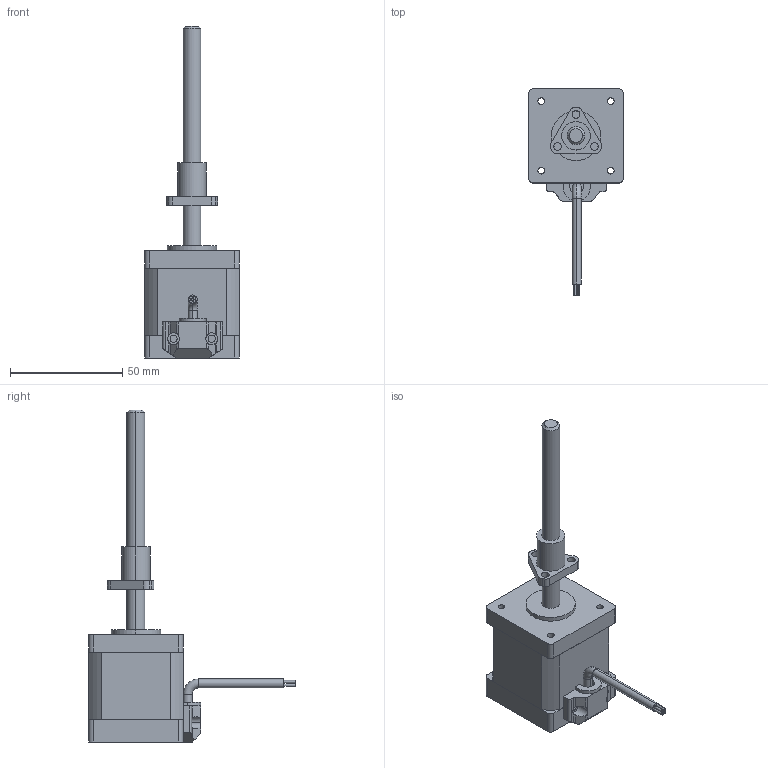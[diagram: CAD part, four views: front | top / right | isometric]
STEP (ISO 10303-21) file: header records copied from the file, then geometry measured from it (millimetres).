
FILE_DESCRIPTION (( 'STEP AP203' ), '1' );
FILE_NAME ('42E248-20-2.5-4-100-001.STEP', '2020-09-25T08:20:50', ( '' ), ( '' ), 'SwSTEP 2.0', 'SolidWorks 2017', '' );
FILE_SCHEMA (( 'CONFIG_CONTROL_DESIGN' ));
Length unit declared in the file: millimetre
Products named in the file (1): 42E248-20-2.5-4-100-001
Bounding box: 42 x 92 x 148 mm (x, y, z)
Volume: 92973.4 mm3; surface area: 21355.5 mm2
Topology: 3 solids, 3 shells, 163 faces, 425 edges, 279 vertices
Faces by surface type: cylinder 96, plane 59, cone 6, torus 2
Entity records: 5255 total; most frequent: CARTESIAN_POINT 958, DIRECTION 926, ORIENTED_EDGE 850, EDGE_CURVE 425, AXIS2_PLACEMENT_3D 355, VERTEX_POINT 279, LINE 216, VECTOR 216
